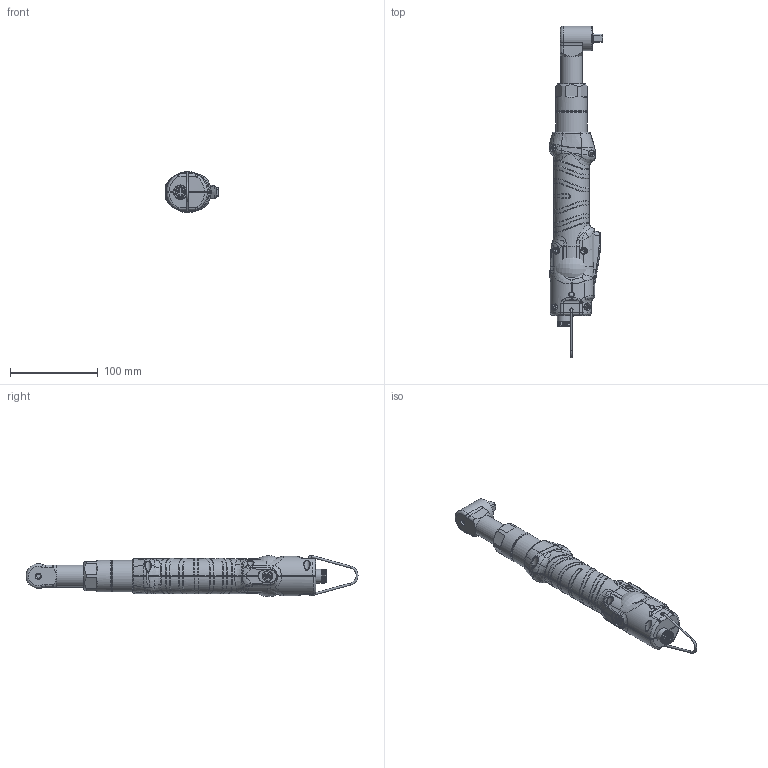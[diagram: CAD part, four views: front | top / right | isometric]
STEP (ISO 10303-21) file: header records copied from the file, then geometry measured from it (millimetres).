
FILE_DESCRIPTION (( 'STEP AP214' ), '1' );
FILE_NAME ('KDS-PL20SANG.STEP', '2025-10-22T11:20:41', ( '' ), ( '' ), 'SwSTEP 2.0', 'SolidWorks 2024', '' );
FILE_SCHEMA (( 'AUTOMOTIVE_DESIGN' ));
Length unit declared in the file: millimetre
Products named in the file (1): KDS-PL20SANG
Bounding box: 61.29 x 377.8 x 46.95 mm (x, y, z)
Surface area: 68216.3 mm2 (no closed solid volume)
Topology: 0 solids, 29 shells, 833 faces, 2828 edges, 1975 vertices
Faces by surface type: bspline 412, cylinder 158, plane 153, cone 88, torus 21, sphere 1
Full cylindrical faces by diameter (mm): 1 x10, 1.4 x2, 2.2 x2, 7 x1, 11.8 x2, 12 x1, 14.85 x2, 16 x1, 24.1 x1, 25 x1, 25.2 x1, 28 x1, 34.5 x1, 36 x2
Entity records: 74891 total; most frequent: CARTESIAN_POINT 46316, ORIENTED_EDGE 4461, EDGE_CURVE 2729, DIRECTION 2646, VERTEX_POINT 1952, B_SPLINE_CURVE_WITH_KNOTS 1385, AXIS2_PLACEMENT_3D 993, EDGE_LOOP 978
